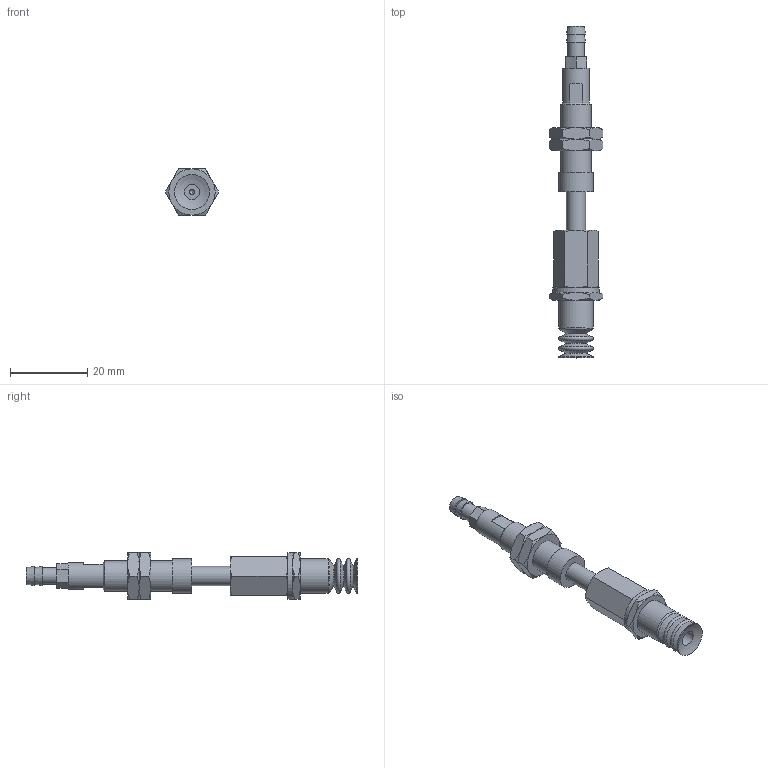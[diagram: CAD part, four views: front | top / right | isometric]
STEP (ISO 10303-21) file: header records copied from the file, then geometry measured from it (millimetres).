
FILE_DESCRIPTION(('STEP AP203'),'1');
FILE_NAME('-T.stp','2025-08-27T02:10:53',(' '),(' '),'Spatial InterOp 3D',' ',' ');
FILE_SCHEMA(('CONFIG_CONTROL_DESIGN'));
Length unit declared in the file: millimetre
Products named in the file (8): BNABPCTS-10-10-※-T; ADAPTER; NAPCTS-10-10-MBODY; Adapter_napc-10-T; Nut napc_s-10-10; NAPCTS-10-10-FBODY; BPCG-10-※; T
Assembly tree (8 placements, depth 2):
  BNABPCTS-10-10-※-T
    ADAPTER
    NAPCTS-10-10-MBODY
    Adapter_napc-10-T
    Nut napc_s-10-10  x2
    NAPCTS-10-10-FBODY
    BPCG-10-※
    T
Bounding box: 13.86 x 86.2 x 12 mm (x, y, z)
Volume: 4637.4 mm3; surface area: 5241.3 mm2
Topology: 8 solids, 8 shells, 160 faces, 322 edges, 189 vertices
Faces by surface type: cone 67, plane 61, cylinder 22, torus 8, sphere 2
Full cylindrical faces by diameter (mm): 1.25 x1, 3 x1, 4 x1, 4.134 x2, 4.3 x1, 5 x8, 7 x1, 7.188 x2, 8 x1, 9 x3, 12 x1
Entity records: 4050 total; most frequent: CARTESIAN_POINT 1067, DIRECTION 548, ORIENTED_EDGE 444, AXIS2_PLACEMENT_3D 252, EDGE_CURVE 222, EDGE_LOOP 206, FACE_OUTER_BOUND 168, VERTEX_POINT 159
